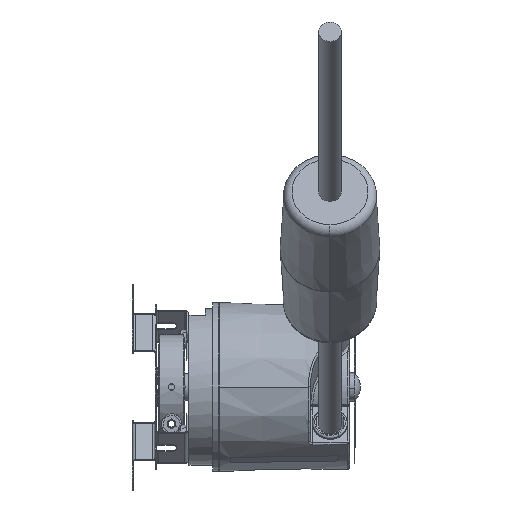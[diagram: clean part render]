
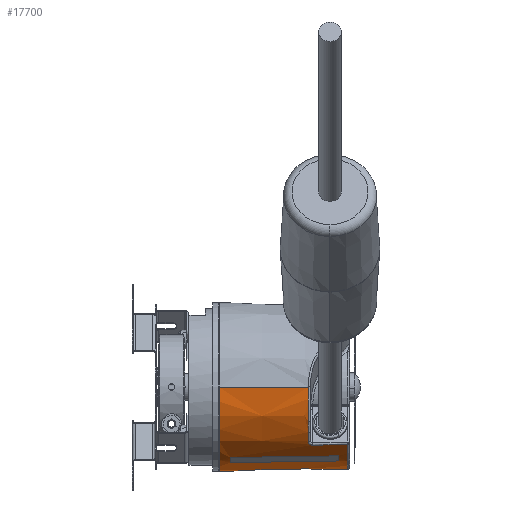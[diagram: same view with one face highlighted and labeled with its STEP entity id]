
A CAD part, front view. The second image highlights one B-rep face of the part: STEP entity #17700.
In plain terms, the highlighted conical face has half-angle 1 degrees and reference radius 18.976 mm.
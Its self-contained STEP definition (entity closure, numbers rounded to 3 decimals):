
#427 = CARTESIAN_POINT ( 'NONE',  ( 39.7, -8.474, -17.028 ) ) ;
#428 = B_SPLINE_CURVE_WITH_KNOTS ( 'NONE', 3,
 ( #436, #435, #434, #433 ),
 .UNSPECIFIED., .F., .F.,
 ( 4, 4 ),
 ( 0., 0.025 ),
 .UNSPECIFIED. ) ;
#433 = CARTESIAN_POINT ( 'NONE',  ( 39.7, -8.474, -17.028 ) ) ;
#434 = CARTESIAN_POINT ( 'NONE',  ( 31.367, -8.543, -17.156 ) ) ;
#435 = CARTESIAN_POINT ( 'NONE',  ( 23.033, -8.611, -17.284 ) ) ;
#436 = CARTESIAN_POINT ( 'NONE',  ( 14.7, -8.68, -17.413 ) ) ;
#459 = CARTESIAN_POINT ( 'NONE',  ( 14.7, -10.74, -16.224 ) ) ;
#460 = B_SPLINE_CURVE_WITH_KNOTS ( 'NONE', 3,
 ( #464, #463, #462, #461 ),
 .UNSPECIFIED., .F., .F.,
 ( 4, 4 ),
 ( 0., 0.025 ),
 .UNSPECIFIED. ) ;
#461 = CARTESIAN_POINT ( 'NONE',  ( 14.7, -10.74, -16.224 ) ) ;
#462 = CARTESIAN_POINT ( 'NONE',  ( 23.033, -10.663, -16.1 ) ) ;
#463 = CARTESIAN_POINT ( 'NONE',  ( 31.367, -10.586, -15.976 ) ) ;
#464 = CARTESIAN_POINT ( 'NONE',  ( 39.7, -10.51, -15.853 ) ) ;
#475 = FACE_BOUND ( 'NONE', #17759, .T. ) ;
#477 = FACE_OUTER_BOUND ( 'NONE', #17751, .T. ) ;
#486 = CARTESIAN_POINT ( 'NONE',  ( 14.7, -8.68, -17.413 ) ) ;
#503 = CARTESIAN_POINT ( 'NONE',  ( 39.7, -10.51, -15.853 ) ) ;
#526 = AXIS2_PLACEMENT_3D ( 'NONE', #560, #549, #550 ) ;
#547 = CONICAL_SURFACE ( 'NONE', #526, 18.976, 0.017 ) ;
#549 = DIRECTION ( 'NONE',  ( -1., 0., 0. ) ) ;
#550 = DIRECTION ( 'NONE',  ( 0., -1., 0. ) ) ;
#560 = CARTESIAN_POINT ( 'NONE',  ( 42.2, 0., 0. ) ) ;
#637 = CARTESIAN_POINT ( 'NONE',  ( 32.709, -14.397, -12.615 ) ) ;
#638 = DIRECTION ( 'NONE',  ( 0., 1., 0. ) ) ;
#664 = DIRECTION ( 'NONE',  ( 0., -1., 0. ) ) ;
#665 = DIRECTION ( 'NONE',  ( 1., 0., 0. ) ) ;
#666 = AXIS2_PLACEMENT_3D ( 'NONE', #710, #665, #664 ) ;
#667 = CIRCLE ( 'NONE', #666, 19.456 ) ;
#677 = DIRECTION ( 'NONE',  ( 0., -1., 0. ) ) ;
#678 = DIRECTION ( 'NONE',  ( 1., 0., 0. ) ) ;
#679 = AXIS2_PLACEMENT_3D ( 'NONE', #708, #678, #677 ) ;
#708 = CARTESIAN_POINT ( 'NONE',  ( 39.7, 0., 0. ) ) ;
#709 = CIRCLE ( 'NONE', #679, 19.02 ) ;
#710 = CARTESIAN_POINT ( 'NONE',  ( 14.7, 0., 0. ) ) ;
#711 = DIRECTION ( 'NONE',  ( -1., 0., 0. ) ) ;
#712 = CARTESIAN_POINT ( 'NONE',  ( 32.709, 0., 0. ) ) ;
#713 = AXIS2_PLACEMENT_3D ( 'NONE', #712, #711, #638 ) ;
#714 = CIRCLE ( 'NONE', #713, 19.142 ) ;
#824 = B_SPLINE_CURVE_WITH_KNOTS ( 'NONE', 3,
 ( #909, #832, #831, #830, #829, #828, #827, #881, #879, #877 ),
 .UNSPECIFIED., .F., .F.,
 ( 4, 2, 2, 2, 4 ),
 ( 0., 0., 0.001, 0.001, 0.002 ),
 .UNSPECIFIED. ) ;
#827 = CARTESIAN_POINT ( 'NONE',  ( 33.19, -13.762, -13.293 ) ) ;
#828 = CARTESIAN_POINT ( 'NONE',  ( 33.079, -13.821, -13.235 ) ) ;
#829 = CARTESIAN_POINT ( 'NONE',  ( 32.898, -13.961, -13.091 ) ) ;
#830 = CARTESIAN_POINT ( 'NONE',  ( 32.827, -14.044, -13.005 ) ) ;
#831 = CARTESIAN_POINT ( 'NONE',  ( 32.733, -14.216, -12.819 ) ) ;
#832 = CARTESIAN_POINT ( 'NONE',  ( 32.709, -14.307, -12.718 ) ) ;
#877 = CARTESIAN_POINT ( 'NONE',  ( 33.709, -13.658, -13.387 ) ) ;
#879 = CARTESIAN_POINT ( 'NONE',  ( 33.572, -13.659, -13.389 ) ) ;
#881 = CARTESIAN_POINT ( 'NONE',  ( 33.437, -13.681, -13.37 ) ) ;
#909 = CARTESIAN_POINT ( 'NONE',  ( 32.709, -14.397, -12.615 ) ) ;
#4115 = B_SPLINE_CURVE_WITH_KNOTS ( 'NONE', 3,
 ( #4188, #4187, #4128, #4127, #4126, #4174, #4173, #4172, #4171, #4170 ),
 .UNSPECIFIED., .F., .F.,
 ( 4, 3, 3, 4 ),
 ( 0., 0.001, 0.005, 0.008 ),
 .UNSPECIFIED. ) ;
#4126 = CARTESIAN_POINT ( 'NONE',  ( 39.376, -13.607, -13.298 ) ) ;
#4127 = CARTESIAN_POINT ( 'NONE',  ( 40.709, -13.595, -13.277 ) ) ;
#4128 = CARTESIAN_POINT ( 'NONE',  ( 41.042, -13.592, -13.271 ) ) ;
#4170 = CARTESIAN_POINT ( 'NONE',  ( 33.709, -13.658, -13.387 ) ) ;
#4171 = CARTESIAN_POINT ( 'NONE',  ( 34.709, -13.649, -13.371 ) ) ;
#4172 = CARTESIAN_POINT ( 'NONE',  ( 35.709, -13.64, -13.356 ) ) ;
#4173 = CARTESIAN_POINT ( 'NONE',  ( 36.71, -13.631, -13.34 ) ) ;
#4174 = CARTESIAN_POINT ( 'NONE',  ( 38.043, -13.619, -13.319 ) ) ;
#4182 = CARTESIAN_POINT ( 'NONE',  ( 33.709, -13.658, -13.387 ) ) ;
#4187 = CARTESIAN_POINT ( 'NONE',  ( 41.375, -13.589, -13.266 ) ) ;
#4188 = CARTESIAN_POINT ( 'NONE',  ( 41.709, -13.586, -13.261 ) ) ;
#8533 = VERTEX_POINT ( 'NONE', #14362 ) ;
#14362 = CARTESIAN_POINT ( 'NONE',  ( 41.709, -13.586, -13.261 ) ) ;
#14559 = VERTEX_POINT ( 'NONE', #18935 ) ;
#14561 = EDGE_CURVE ( 'NONE', #14559, #14562, #18941, .T. ) ;
#14562 = VERTEX_POINT ( 'NONE', #18937 ) ;
#14700 = VERTEX_POINT ( 'NONE', #19317 ) ;
#14701 = VERTEX_POINT ( 'NONE', #19316 ) ;
#14866 = EDGE_CURVE ( 'NONE', #14701, #14700, #21473, .T. ) ;
#14927 = EDGE_CURVE ( 'NONE', #14559, #8533, #22208, .T. ) ;
#15001 = VERTEX_POINT ( 'NONE', #4182 ) ;
#15003 = EDGE_CURVE ( 'NONE', #8533, #15001, #4115, .T. ) ;
#17471 = EDGE_CURVE ( 'NONE', #14700, #14562, #21959, .T. ) ;
#17689 = EDGE_CURVE ( 'NONE', #17690, #17691, #460, .T. ) ;
#17690 = VERTEX_POINT ( 'NONE', #503 ) ;
#17691 = VERTEX_POINT ( 'NONE', #459 ) ;
#17694 = VERTEX_POINT ( 'NONE', #486 ) ;
#17696 = EDGE_CURVE ( 'NONE', #17694, #17697, #428, .T. ) ;
#17697 = VERTEX_POINT ( 'NONE', #427 ) ;
#17700 = ADVANCED_FACE ( 'NONE', ( #477, #475 ), #547, .T. ) ;
#17721 = EDGE_CURVE ( 'NONE', #17722, #14701, #714, .T. ) ;
#17722 = VERTEX_POINT ( 'NONE', #637 ) ;
#17727 = ORIENTED_EDGE ( 'NONE', *, *, #17728, .T. ) ;
#17728 = EDGE_CURVE ( 'NONE', #17690, #17697, #709, .T. ) ;
#17729 = ORIENTED_EDGE ( 'NONE', *, *, #17696, .F. ) ;
#17730 = ORIENTED_EDGE ( 'NONE', *, *, #17731, .F. ) ;
#17731 = EDGE_CURVE ( 'NONE', #17691, #17694, #667, .T. ) ;
#17742 = EDGE_CURVE ( 'NONE', #17722, #15001, #824, .T. ) ;
#17751 = EDGE_LOOP ( 'NONE', ( #17752, #17753, #17754, #17755, #17756, #17757, #17758 ) ) ;
#17752 = ORIENTED_EDGE ( 'NONE', *, *, #14561, .F. ) ;
#17753 = ORIENTED_EDGE ( 'NONE', *, *, #14927, .T. ) ;
#17754 = ORIENTED_EDGE ( 'NONE', *, *, #15003, .T. ) ;
#17755 = ORIENTED_EDGE ( 'NONE', *, *, #17742, .F. ) ;
#17756 = ORIENTED_EDGE ( 'NONE', *, *, #17721, .T. ) ;
#17757 = ORIENTED_EDGE ( 'NONE', *, *, #14866, .T. ) ;
#17758 = ORIENTED_EDGE ( 'NONE', *, *, #17471, .T. ) ;
#17759 = EDGE_LOOP ( 'NONE', ( #17760, #17727, #17729, #17730 ) ) ;
#17760 = ORIENTED_EDGE ( 'NONE', *, *, #17689, .F. ) ;
#18935 = CARTESIAN_POINT ( 'NONE',  ( 41.709, 18.985, 0. ) ) ;
#18937 = CARTESIAN_POINT ( 'NONE',  ( 12.2, 19.5, 0. ) ) ;
#18938 = DIRECTION ( 'NONE',  ( -1., 0.017, 0. ) ) ;
#18939 = VECTOR ( 'NONE', #18938, 1000. ) ;
#18940 = CARTESIAN_POINT ( 'NONE',  ( 42.2, 18.976, 0. ) ) ;
#18941 = LINE ( 'NONE', #18940, #18939 ) ;
#19316 = CARTESIAN_POINT ( 'NONE',  ( 32.709, -19.142, 0. ) ) ;
#19317 = CARTESIAN_POINT ( 'NONE',  ( 12.2, -19.5, 0. ) ) ;
#21473 = LINE ( 'NONE', #21490, #21488 ) ;
#21486 = DIRECTION ( 'NONE',  ( -1., -0.017, 0. ) ) ;
#21488 = VECTOR ( 'NONE', #21486, 1000. ) ;
#21490 = CARTESIAN_POINT ( 'NONE',  ( 42.2, -18.976, 0. ) ) ;
#21928 = DIRECTION ( 'NONE',  ( 0., 1., 0. ) ) ;
#21959 = CIRCLE ( 'NONE', #21981, 19.5 ) ;
#21981 = AXIS2_PLACEMENT_3D ( 'NONE', #22046, #22009, #21928 ) ;
#22009 = DIRECTION ( 'NONE',  ( 1., 0., 0. ) ) ;
#22046 = CARTESIAN_POINT ( 'NONE',  ( 12.2, 0., 0. ) ) ;
#22208 = CIRCLE ( 'NONE', #22320, 18.985 ) ;
#22314 = DIRECTION ( 'NONE',  ( 0., 1., 0. ) ) ;
#22316 = DIRECTION ( 'NONE',  ( -1., 0., 0. ) ) ;
#22318 = CARTESIAN_POINT ( 'NONE',  ( 41.709, 0., 0. ) ) ;
#22320 = AXIS2_PLACEMENT_3D ( 'NONE', #22318, #22316, #22314 ) ;
